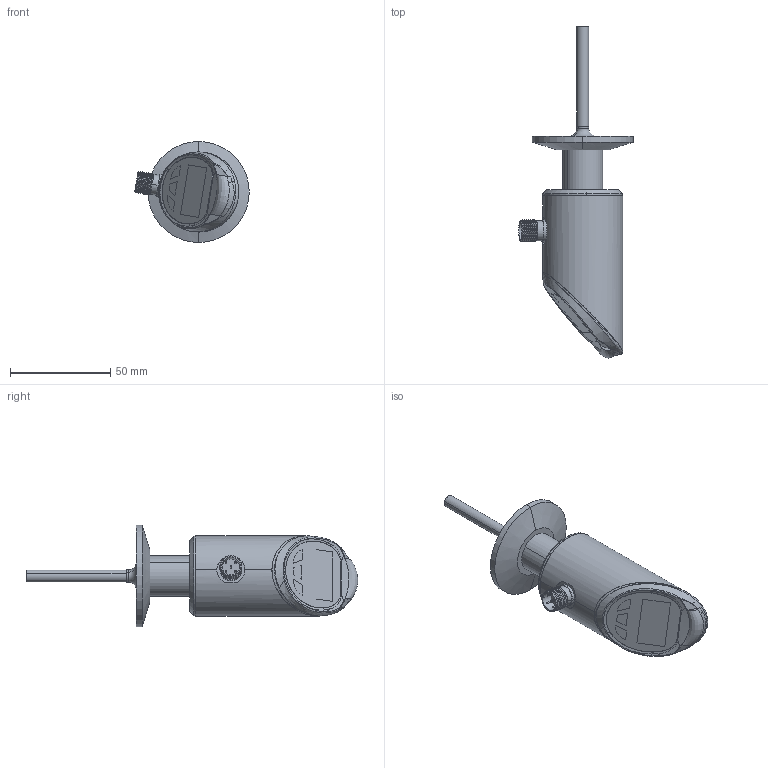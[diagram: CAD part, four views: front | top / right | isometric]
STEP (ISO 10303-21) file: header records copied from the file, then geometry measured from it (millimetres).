
FILE_DESCRIPTION (( 'STEP AP203' ), '1' );
FILE_NAME ('勤俋TXW縐攫50.5蚾饜极.STEP', '2025-12-27T09:21:28', ( '' ), ( '' ), 'SwSTEP 2.0', 'SolidWorks 2022', '' );
FILE_SCHEMA (( 'CONFIG_CONTROL_DESIGN' ));
Length unit declared in the file: millimetre
Products named in the file (14): _X2_88C5914D4F53_X0_1111111_ASM; 蟀諉遠ㄗ尨砩芞ㄘ; _X2_63D25934_X0_1; 壳体卡盘探头连接件; 50.5縐嘀; 恲僅抻芛奪眻噤6; 桶芛; _X2_58F34F53_X0__0; _X2_9762819C_X0_; 勤俋FXG桶芛; _X2_88C5914D4F53_X0_4_5_0_ASM; _X2_66F29762_X0_2_0; FXG_X2_6D4191CF6E295EA64F20611F_ASM; 勤俋TXW縐攫50.5蚾饜极
Assembly tree (13 placements, depth 7):
  勤俋TXW縐攫50.5蚾饜极
    50.5縐嘀
    壳体卡盘探头连接件
    蟀諉遠ㄗ尨砩芞ㄘ
    恲僅抻芛奪眻噤6
    勤俋FXG桶芛
      桶芛
        _X2_88C5914D4F53_X0_1111111_ASM
          FXG_X2_6D4191CF6E295EA64F20611F_ASM
            _X2_88C5914D4F53_X0_4_5_0_ASM
              _X2_63D25934_X0_1
              _X2_58F34F53_X0__0
              _X2_66F29762_X0_2_0
            _X2_9762819C_X0_
Bounding box: 57.14 x 165.78 x 50.5 mm (x, y, z)
Volume: 86651.8 mm3; surface area: 37717.9 mm2
Topology: 8 solids, 9 shells, 217 faces, 490 edges, 319 vertices
Faces by surface type: cylinder 88, plane 68, bspline 45, torus 8, cone 8
Entity records: 17839 total; most frequent: CARTESIAN_POINT 11820, ORIENTED_EDGE 978, DIRECTION 850, EDGE_CURVE 489, AXIS2_PLACEMENT_3D 347, VERTEX_POINT 319, EDGE_LOOP 254, FACE_OUTER_BOUND 217
